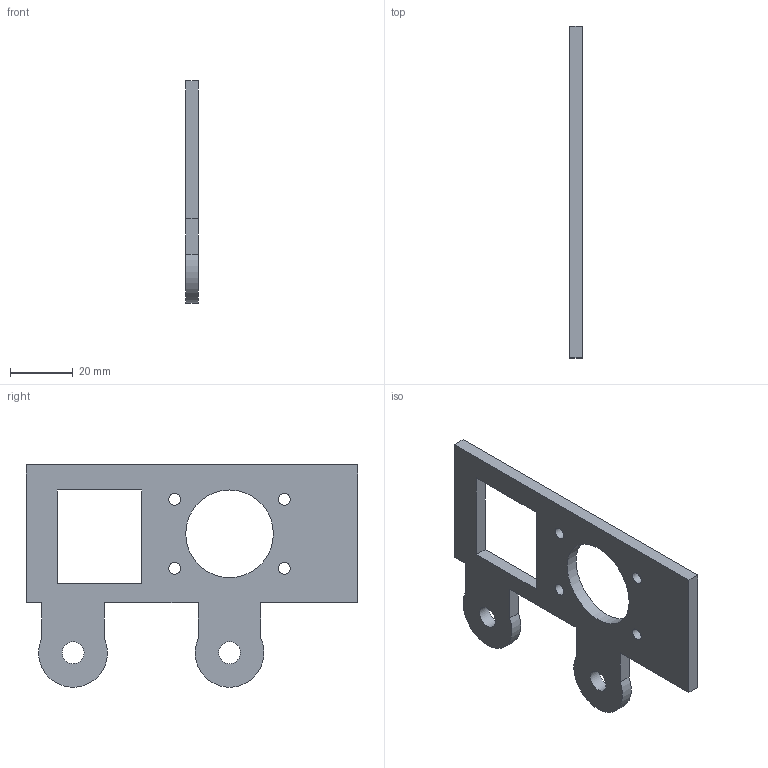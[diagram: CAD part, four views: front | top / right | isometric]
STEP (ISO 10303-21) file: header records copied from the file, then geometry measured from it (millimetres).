
FILE_DESCRIPTION(('Open CASCADE Model'),'2;1');
FILE_NAME('Open CASCADE Shape Model','2026-10-15T19:48:39',('Author'),( 'Open CASCADE'),'Open CASCADE STEP processor 7.9','Open CASCADE 7.9' ,'Unknown');
FILE_SCHEMA(('AUTOMOTIVE_DESIGN { 1 0 10303 214 1 1 1 1 }'));
Length unit declared in the file: millimetre
Products named in the file (1): Open CASCADE STEP translator 7.9 6
Bounding box: 4 x 106 x 70.96 mm (x, y, z)
Volume: 16593.5 mm3; surface area: 11046.3 mm2
Topology: 1 solids, 1 shells, 25 faces, 69 edges, 46 vertices
Faces by surface type: plane 16, cylinder 9
Full cylindrical faces by diameter (mm): 3.8 x4, 7 x2, 28 x1
Entity records: 1714 total; most frequent: CARTESIAN_POINT 323, DIRECTION 243, LINE 139, VECTOR 139, ORIENTED_EDGE 138, PCURVE 138, DEFINITIONAL_REPRESENTATION 138, EDGE_CURVE 69
